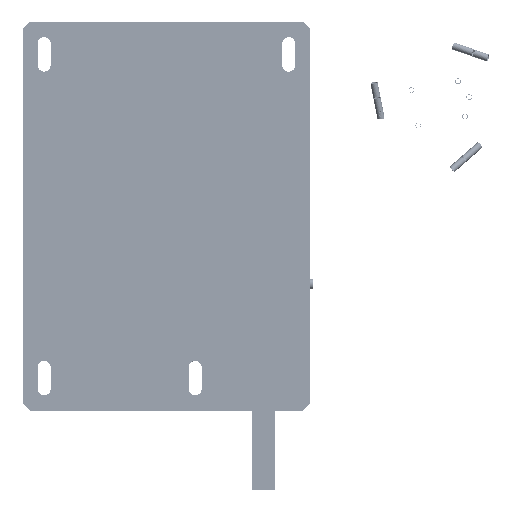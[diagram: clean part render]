
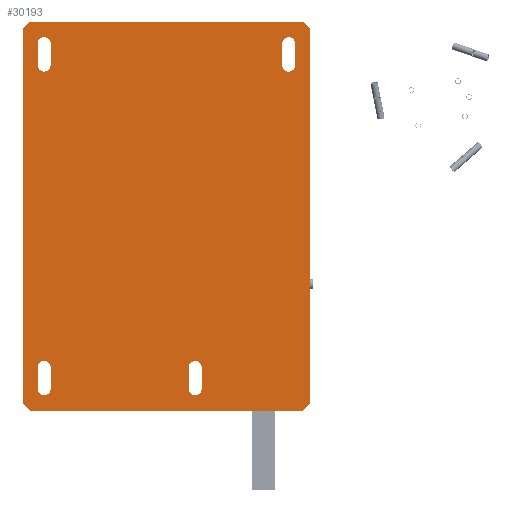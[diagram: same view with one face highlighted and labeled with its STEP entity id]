
A CAD part, top view. The second image highlights one B-rep face of the part: STEP entity #30193.
In plain terms, the highlighted planar face has unit normal (0, 0, 1).
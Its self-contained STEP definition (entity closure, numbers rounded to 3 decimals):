
#29734=CARTESIAN_POINT('',(120.5,-130.5,107.));
#29735=DIRECTION('',(0.,0.,-1.));
#29736=DIRECTION('',(1.,0.,0.));
#29737=AXIS2_PLACEMENT_3D('',#29734,#29735,#29736);
#29739=DIRECTION('',(0.,-1.,0.));
#29740=VECTOR('',#29739,15.);
#29741=CARTESIAN_POINT('',(125.,-115.5,107.));
#29742=LINE('',#29741,#29740);
#29743=CARTESIAN_POINT('',(120.5,-115.5,107.));
#29744=DIRECTION('',(0.,0.,-1.));
#29745=DIRECTION('',(-1.,0.,0.));
#29746=AXIS2_PLACEMENT_3D('',#29743,#29744,#29745);
#29748=DIRECTION('',(0.,1.,0.));
#29749=VECTOR('',#29748,15.);
#29750=CARTESIAN_POINT('',(116.,-130.5,107.));
#29751=LINE('',#29750,#29749);
#29752=DIRECTION('',(0.,-1.,0.));
#29753=VECTOR('',#29752,15.);
#29754=CARTESIAN_POINT('',(20.,-115.5,107.));
#29755=LINE('',#29754,#29753);
#29756=CARTESIAN_POINT('',(15.5,-115.5,107.));
#29757=DIRECTION('',(0.,0.,-1.));
#29758=DIRECTION('',(-1.,0.,0.));
#29759=AXIS2_PLACEMENT_3D('',#29756,#29757,#29758);
#29761=DIRECTION('',(0.,1.,0.));
#29762=VECTOR('',#29761,15.);
#29763=CARTESIAN_POINT('',(11.,-130.5,107.));
#29764=LINE('',#29763,#29762);
#29765=CARTESIAN_POINT('',(15.5,-130.5,107.));
#29766=DIRECTION('',(0.,0.,-1.));
#29767=DIRECTION('',(1.,0.,0.));
#29768=AXIS2_PLACEMENT_3D('',#29765,#29766,#29767);
#29770=DIRECTION('',(0.,-1.,0.));
#29771=VECTOR('',#29770,15.);
#29772=CARTESIAN_POINT('',(190.,109.5,107.));
#29773=LINE('',#29772,#29771);
#29774=CARTESIAN_POINT('',(185.5,109.5,107.));
#29775=DIRECTION('',(0.,0.,-1.));
#29776=DIRECTION('',(-1.,0.,0.));
#29777=AXIS2_PLACEMENT_3D('',#29774,#29775,#29776);
#29779=DIRECTION('',(0.,1.,0.));
#29780=VECTOR('',#29779,15.);
#29781=CARTESIAN_POINT('',(181.,94.5,107.));
#29782=LINE('',#29781,#29780);
#29783=CARTESIAN_POINT('',(185.5,94.5,107.));
#29784=DIRECTION('',(0.,0.,-1.));
#29785=DIRECTION('',(1.,0.,0.));
#29786=AXIS2_PLACEMENT_3D('',#29783,#29784,#29785);
#29788=DIRECTION('',(0.,-1.,0.));
#29789=VECTOR('',#29788,15.);
#29790=CARTESIAN_POINT('',(20.,109.5,107.));
#29791=LINE('',#29790,#29789);
#29792=CARTESIAN_POINT('',(15.5,109.5,107.));
#29793=DIRECTION('',(0.,0.,-1.));
#29794=DIRECTION('',(-1.,0.,0.));
#29795=AXIS2_PLACEMENT_3D('',#29792,#29793,#29794);
#29797=DIRECTION('',(0.,1.,0.));
#29798=VECTOR('',#29797,15.);
#29799=CARTESIAN_POINT('',(11.,94.5,107.));
#29800=LINE('',#29799,#29798);
#29801=CARTESIAN_POINT('',(15.5,94.5,107.));
#29802=DIRECTION('',(0.,0.,-1.));
#29803=DIRECTION('',(1.,0.,0.));
#29804=AXIS2_PLACEMENT_3D('',#29801,#29802,#29803);
#29806=DIRECTION('',(0.707,-0.707,0.));
#29807=VECTOR('',#29806,7.071);
#29808=CARTESIAN_POINT('',(0.5,-140.5,107.));
#29809=LINE('',#29808,#29807);
#29810=DIRECTION('',(0.,-1.,0.));
#29811=VECTOR('',#29810,260.);
#29812=CARTESIAN_POINT('',(0.5,119.5,107.));
#29813=LINE('',#29812,#29811);
#29814=DIRECTION('',(-0.707,-0.707,0.));
#29815=VECTOR('',#29814,7.071);
#29816=CARTESIAN_POINT('',(5.5,124.5,107.));
#29817=LINE('',#29816,#29815);
#29818=DIRECTION('',(-1.,0.,0.));
#29819=VECTOR('',#29818,190.);
#29820=CARTESIAN_POINT('',(195.5,124.5,107.));
#29821=LINE('',#29820,#29819);
#29822=DIRECTION('',(-0.707,0.707,0.));
#29823=VECTOR('',#29822,7.071);
#29824=CARTESIAN_POINT('',(200.5,119.5,107.));
#29825=LINE('',#29824,#29823);
#29826=DIRECTION('',(0.,1.,0.));
#29827=VECTOR('',#29826,260.);
#29828=CARTESIAN_POINT('',(200.5,-140.5,107.));
#29829=LINE('',#29828,#29827);
#29830=DIRECTION('',(0.707,0.707,0.));
#29831=VECTOR('',#29830,7.071);
#29832=CARTESIAN_POINT('',(195.5,-145.5,107.));
#29833=LINE('',#29832,#29831);
#29834=DIRECTION('',(1.,0.,0.));
#29835=VECTOR('',#29834,190.);
#29836=CARTESIAN_POINT('',(5.5,-145.5,107.));
#29837=LINE('',#29836,#29835);
#29950=CARTESIAN_POINT('',(125.,-130.5,107.));
#29951=CARTESIAN_POINT('',(116.,-130.5,107.));
#29952=VERTEX_POINT('',#29950);
#29953=VERTEX_POINT('',#29951);
#29954=CARTESIAN_POINT('',(116.,-115.5,107.));
#29955=VERTEX_POINT('',#29954);
#29956=CARTESIAN_POINT('',(125.,-115.5,107.));
#29957=VERTEX_POINT('',#29956);
#29958=CARTESIAN_POINT('',(20.,-115.5,107.));
#29959=CARTESIAN_POINT('',(20.,-130.5,107.));
#29960=VERTEX_POINT('',#29958);
#29961=VERTEX_POINT('',#29959);
#29962=CARTESIAN_POINT('',(11.,-130.5,107.));
#29963=VERTEX_POINT('',#29962);
#29964=CARTESIAN_POINT('',(11.,-115.5,107.));
#29965=VERTEX_POINT('',#29964);
#29966=CARTESIAN_POINT('',(190.,109.5,107.));
#29967=CARTESIAN_POINT('',(190.,94.5,107.));
#29968=VERTEX_POINT('',#29966);
#29969=VERTEX_POINT('',#29967);
#29970=CARTESIAN_POINT('',(181.,94.5,107.));
#29971=VERTEX_POINT('',#29970);
#29972=CARTESIAN_POINT('',(181.,109.5,107.));
#29973=VERTEX_POINT('',#29972);
#29974=CARTESIAN_POINT('',(20.,109.5,107.));
#29975=CARTESIAN_POINT('',(20.,94.5,107.));
#29976=VERTEX_POINT('',#29974);
#29977=VERTEX_POINT('',#29975);
#29978=CARTESIAN_POINT('',(11.,94.5,107.));
#29979=VERTEX_POINT('',#29978);
#29980=CARTESIAN_POINT('',(11.,109.5,107.));
#29981=VERTEX_POINT('',#29980);
#29986=CARTESIAN_POINT('',(0.5,-140.5,107.));
#29987=VERTEX_POINT('',#29986);
#29988=CARTESIAN_POINT('',(5.5,-145.5,107.));
#29989=VERTEX_POINT('',#29988);
#29994=CARTESIAN_POINT('',(195.5,-145.5,107.));
#29995=VERTEX_POINT('',#29994);
#29996=CARTESIAN_POINT('',(200.5,-140.5,107.));
#29997=VERTEX_POINT('',#29996);
#30002=CARTESIAN_POINT('',(5.5,124.5,107.));
#30003=VERTEX_POINT('',#30002);
#30004=CARTESIAN_POINT('',(0.5,119.5,107.));
#30005=VERTEX_POINT('',#30004);
#30010=CARTESIAN_POINT('',(200.5,119.5,107.));
#30011=VERTEX_POINT('',#30010);
#30012=CARTESIAN_POINT('',(195.5,124.5,107.));
#30013=VERTEX_POINT('',#30012);
#30134=CARTESIAN_POINT('',(168.,-140.5,107.));
#30135=DIRECTION('',(0.,0.,1.));
#30136=DIRECTION('',(-1.,0.,0.));
#30137=AXIS2_PLACEMENT_3D('',#30134,#30135,#30136);
#30138=PLANE('',#30137);
#30140=ORIENTED_EDGE('',*,*,#30139,.F.);
#30142=ORIENTED_EDGE('',*,*,#30141,.F.);
#30144=ORIENTED_EDGE('',*,*,#30143,.F.);
#30146=ORIENTED_EDGE('',*,*,#30145,.F.);
#30148=ORIENTED_EDGE('',*,*,#30147,.F.);
#30150=ORIENTED_EDGE('',*,*,#30149,.F.);
#30152=ORIENTED_EDGE('',*,*,#30151,.F.);
#30154=ORIENTED_EDGE('',*,*,#30153,.F.);
#30155=EDGE_LOOP('',(#30140,#30142,#30144,#30146,#30148,#30150,#30152,#30154));
#30156=FACE_OUTER_BOUND('',#30155,.F.);
#30158=ORIENTED_EDGE('',*,*,#30157,.F.);
#30160=ORIENTED_EDGE('',*,*,#30159,.F.);
#30162=ORIENTED_EDGE('',*,*,#30161,.F.);
#30164=ORIENTED_EDGE('',*,*,#30163,.F.);
#30165=EDGE_LOOP('',(#30158,#30160,#30162,#30164));
#30166=FACE_BOUND('',#30165,.F.);
#30168=ORIENTED_EDGE('',*,*,#30167,.F.);
#30170=ORIENTED_EDGE('',*,*,#30169,.F.);
#30172=ORIENTED_EDGE('',*,*,#30171,.F.);
#30174=ORIENTED_EDGE('',*,*,#30173,.F.);
#30175=EDGE_LOOP('',(#30168,#30170,#30172,#30174));
#30176=FACE_BOUND('',#30175,.F.);
#30178=ORIENTED_EDGE('',*,*,#30177,.F.);
#30180=ORIENTED_EDGE('',*,*,#30179,.F.);
#30182=ORIENTED_EDGE('',*,*,#30181,.F.);
#30184=ORIENTED_EDGE('',*,*,#30183,.F.);
#30185=EDGE_LOOP('',(#30178,#30180,#30182,#30184));
#30186=FACE_BOUND('',#30185,.F.);
#30187=ORIENTED_EDGE('',*,*,#30086,.F.);
#30188=ORIENTED_EDGE('',*,*,#30101,.F.);
#30189=ORIENTED_EDGE('',*,*,#30115,.F.);
#30190=ORIENTED_EDGE('',*,*,#30128,.F.);
#30191=EDGE_LOOP('',(#30187,#30188,#30189,#30190));
#30192=FACE_BOUND('',#30191,.F.);
#29738=CIRCLE('',#29737,4.5);
#29747=CIRCLE('',#29746,4.5);
#29760=CIRCLE('',#29759,4.5);
#29769=CIRCLE('',#29768,4.5);
#29778=CIRCLE('',#29777,4.5);
#29787=CIRCLE('',#29786,4.5);
#29796=CIRCLE('',#29795,4.5);
#29805=CIRCLE('',#29804,4.5);
#30086=EDGE_CURVE('',#29952,#29953,#29738,.T.);
#30101=EDGE_CURVE('',#29957,#29952,#29742,.T.);
#30115=EDGE_CURVE('',#29955,#29957,#29747,.T.);
#30128=EDGE_CURVE('',#29953,#29955,#29751,.T.);
#30139=EDGE_CURVE('',#29987,#29989,#29809,.T.);
#30141=EDGE_CURVE('',#30005,#29987,#29813,.T.);
#30143=EDGE_CURVE('',#30003,#30005,#29817,.T.);
#30145=EDGE_CURVE('',#30013,#30003,#29821,.T.);
#30147=EDGE_CURVE('',#30011,#30013,#29825,.T.);
#30149=EDGE_CURVE('',#29997,#30011,#29829,.T.);
#30151=EDGE_CURVE('',#29995,#29997,#29833,.T.);
#30153=EDGE_CURVE('',#29989,#29995,#29837,.T.);
#30157=EDGE_CURVE('',#29960,#29961,#29755,.T.);
#30159=EDGE_CURVE('',#29965,#29960,#29760,.T.);
#30161=EDGE_CURVE('',#29963,#29965,#29764,.T.);
#30163=EDGE_CURVE('',#29961,#29963,#29769,.T.);
#30167=EDGE_CURVE('',#29968,#29969,#29773,.T.);
#30169=EDGE_CURVE('',#29973,#29968,#29778,.T.);
#30171=EDGE_CURVE('',#29971,#29973,#29782,.T.);
#30173=EDGE_CURVE('',#29969,#29971,#29787,.T.);
#30177=EDGE_CURVE('',#29976,#29977,#29791,.T.);
#30179=EDGE_CURVE('',#29981,#29976,#29796,.T.);
#30181=EDGE_CURVE('',#29979,#29981,#29800,.T.);
#30183=EDGE_CURVE('',#29977,#29979,#29805,.T.);
#30193=ADVANCED_FACE('',(#30156,#30166,#30176,#30186,#30192),#30138,.T.);
